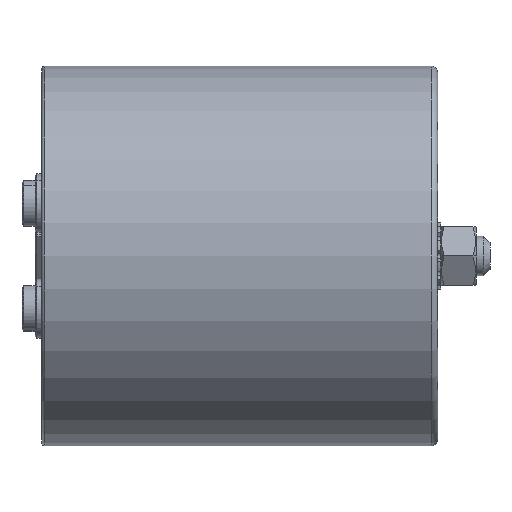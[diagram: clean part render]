
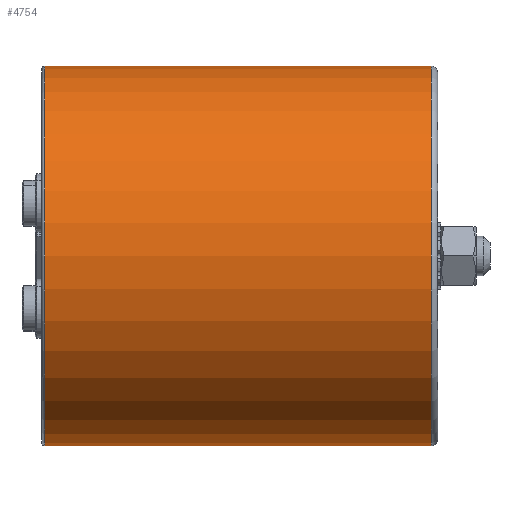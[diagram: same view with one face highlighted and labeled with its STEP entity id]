
A CAD part, left-side view. The second image highlights one B-rep face of the part: STEP entity #4754.
In plain terms, the highlighted cylindrical face has radius 58 mm (diameter 116 mm), a partial arc.
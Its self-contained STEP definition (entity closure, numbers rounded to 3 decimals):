
#25 = CARTESIAN_POINT ( 'NONE',  ( 0., -10., 58. ) ) ;
#296 = CARTESIAN_POINT ( 'NONE',  ( 0., -10., -58. ) ) ;
#482 = ORIENTED_EDGE ( 'NONE', *, *, #3795, .T. ) ;
#562 = CARTESIAN_POINT ( 'NONE',  ( 0., -1., -58. ) ) ;
#636 = CIRCLE ( 'NONE', #4741, 58. ) ;
#653 = DIRECTION ( 'NONE',  ( 0., 1., 0. ) ) ;
#659 = DIRECTION ( 'NONE',  ( 0., 1., 0. ) ) ;
#958 = DIRECTION ( 'NONE',  ( 0., 0., 1. ) ) ;
#1346 = DIRECTION ( 'NONE',  ( 0., 0., -1. ) ) ;
#1859 = EDGE_CURVE ( 'NONE', #8325, #4135, #2360, .T. ) ;
#2295 = ORIENTED_EDGE ( 'NONE', *, *, #4193, .T. ) ;
#2299 = VERTEX_POINT ( 'NONE', #5219 ) ;
#2360 = LINE ( 'NONE', #296, #4377 ) ;
#2615 = DIRECTION ( 'NONE',  ( 0., 1., 0. ) ) ;
#2695 = CARTESIAN_POINT ( 'NONE',  ( 0., -119., -58. ) ) ;
#2828 = ORIENTED_EDGE ( 'NONE', *, *, #1859, .F. ) ;
#3509 = CARTESIAN_POINT ( 'NONE',  ( 0., -1., 58. ) ) ;
#3566 = CYLINDRICAL_SURFACE ( 'NONE', #6562, 58. ) ;
#3732 = VECTOR ( 'NONE', #659, 1000. ) ;
#3795 = EDGE_CURVE ( 'NONE', #2299, #7535, #7651, .T. ) ;
#3896 = CARTESIAN_POINT ( 'NONE',  ( 0., -119., 0. ) ) ;
#3908 = EDGE_CURVE ( 'NONE', #7535, #4135, #7156, .T. ) ;
#4135 = VERTEX_POINT ( 'NONE', #562 ) ;
#4193 = EDGE_CURVE ( 'NONE', #8325, #2299, #636, .T. ) ;
#4377 = VECTOR ( 'NONE', #2615, 1000. ) ;
#4395 = CARTESIAN_POINT ( 'NONE',  ( 0., -10., 0. ) ) ;
#4741 = AXIS2_PLACEMENT_3D ( 'NONE', #3896, #653, #1346 ) ;
#4754 = ADVANCED_FACE ( 'NONE', ( #6093 ), #3566, .T. ) ;
#5219 = CARTESIAN_POINT ( 'NONE',  ( 0., -119., 58. ) ) ;
#5540 = EDGE_LOOP ( 'NONE', ( #2295, #482, #6314, #2828 ) ) ;
#5642 = DIRECTION ( 'NONE',  ( 0., 1., 0. ) ) ;
#6071 = AXIS2_PLACEMENT_3D ( 'NONE', #7319, #7987, #958 ) ;
#6093 = FACE_OUTER_BOUND ( 'NONE', #5540, .T. ) ;
#6314 = ORIENTED_EDGE ( 'NONE', *, *, #3908, .T. ) ;
#6562 = AXIS2_PLACEMENT_3D ( 'NONE', #4395, #5642, #7493 ) ;
#7156 = CIRCLE ( 'NONE', #6071, 58. ) ;
#7319 = CARTESIAN_POINT ( 'NONE',  ( 0., -1., 0. ) ) ;
#7493 = DIRECTION ( 'NONE',  ( 0., 0., -1. ) ) ;
#7535 = VERTEX_POINT ( 'NONE', #3509 ) ;
#7651 = LINE ( 'NONE', #25, #3732 ) ;
#7987 = DIRECTION ( 'NONE',  ( 0., -1., 0. ) ) ;
#8325 = VERTEX_POINT ( 'NONE', #2695 ) ;
